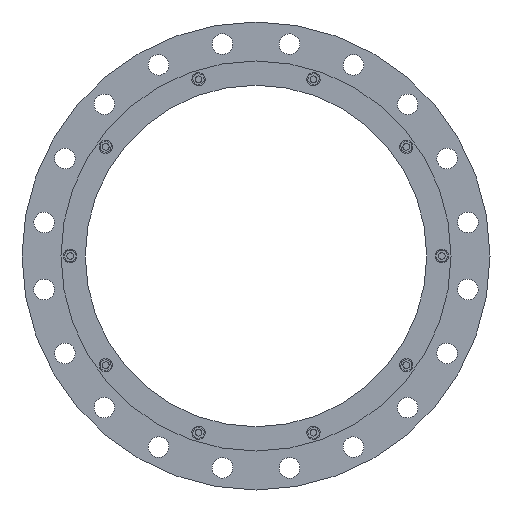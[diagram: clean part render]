
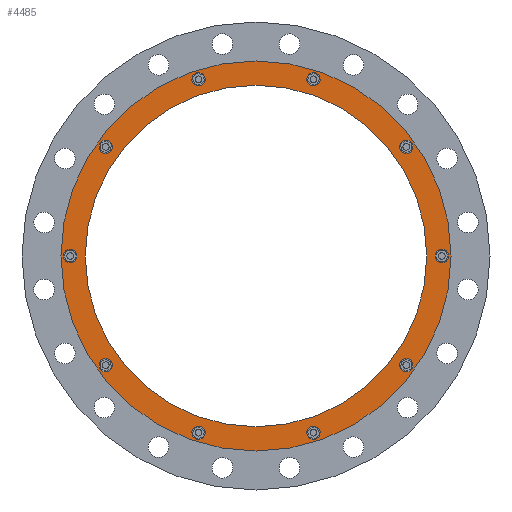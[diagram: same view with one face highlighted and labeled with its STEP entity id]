
A CAD part, front view. The second image highlights one B-rep face of the part: STEP entity #4485.
In plain terms, the highlighted planar face has unit normal (0, -1, 0).
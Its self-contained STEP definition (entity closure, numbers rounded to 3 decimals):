
#1108=CARTESIAN_POINT('',(0.,-94.452,0.));
#1109=DIRECTION('',(0.,-1.,0.));
#1110=DIRECTION('',(1.,0.,0.));
#1111=AXIS2_PLACEMENT_3D('',#1108,#1109,#1110);
#1113=CARTESIAN_POINT('',(0.,-94.452,0.));
#1114=DIRECTION('',(0.,1.,0.));
#1115=DIRECTION('',(1.,0.,0.));
#1116=AXIS2_PLACEMENT_3D('',#1113,#1114,#1115);
#1118=CARTESIAN_POINT('',(333.5,-94.452,0.));
#1119=DIRECTION('',(0.,-1.,0.));
#1120=DIRECTION('',(0.,0.,-1.));
#1121=AXIS2_PLACEMENT_3D('',#1118,#1119,#1120);
#1123=CARTESIAN_POINT('',(333.5,-94.452,0.));
#1124=DIRECTION('',(0.,-1.,0.));
#1125=DIRECTION('',(0.,0.,1.));
#1126=AXIS2_PLACEMENT_3D('',#1123,#1124,#1125);
#1128=CARTESIAN_POINT('',(269.807,-94.452,196.026));
#1129=DIRECTION('',(0.,-1.,0.));
#1130=DIRECTION('',(0.588,0.,-0.809));
#1131=AXIS2_PLACEMENT_3D('',#1128,#1129,#1130);
#1133=CARTESIAN_POINT('',(269.807,-94.452,196.026));
#1134=DIRECTION('',(0.,-1.,0.));
#1135=DIRECTION('',(-0.588,0.,0.809));
#1136=AXIS2_PLACEMENT_3D('',#1133,#1134,#1135);
#1138=CARTESIAN_POINT('',(103.057,-94.452,317.177));
#1139=DIRECTION('',(0.,-1.,0.));
#1140=DIRECTION('',(0.951,0.,-0.309));
#1141=AXIS2_PLACEMENT_3D('',#1138,#1139,#1140);
#1143=CARTESIAN_POINT('',(103.057,-94.452,317.177));
#1144=DIRECTION('',(0.,-1.,0.));
#1145=DIRECTION('',(-0.951,0.,0.309));
#1146=AXIS2_PLACEMENT_3D('',#1143,#1144,#1145);
#1148=CARTESIAN_POINT('',(-103.057,-94.452,317.177));
#1149=DIRECTION('',(0.,-1.,0.));
#1150=DIRECTION('',(0.951,0.,0.309));
#1151=AXIS2_PLACEMENT_3D('',#1148,#1149,#1150);
#1153=CARTESIAN_POINT('',(-103.057,-94.452,317.177));
#1154=DIRECTION('',(0.,-1.,0.));
#1155=DIRECTION('',(-0.951,0.,-0.309));
#1156=AXIS2_PLACEMENT_3D('',#1153,#1154,#1155);
#1158=CARTESIAN_POINT('',(-269.807,-94.452,196.026));
#1159=DIRECTION('',(0.,-1.,0.));
#1160=DIRECTION('',(0.588,0.,0.809));
#1161=AXIS2_PLACEMENT_3D('',#1158,#1159,#1160);
#1163=CARTESIAN_POINT('',(-269.807,-94.452,196.026));
#1164=DIRECTION('',(0.,-1.,0.));
#1165=DIRECTION('',(-0.588,0.,-0.809));
#1166=AXIS2_PLACEMENT_3D('',#1163,#1164,#1165);
#1168=CARTESIAN_POINT('',(-333.5,-94.452,0.));
#1169=DIRECTION('',(0.,-1.,0.));
#1170=DIRECTION('',(0.,0.,1.));
#1171=AXIS2_PLACEMENT_3D('',#1168,#1169,#1170);
#1173=CARTESIAN_POINT('',(-333.5,-94.452,0.));
#1174=DIRECTION('',(0.,-1.,0.));
#1175=DIRECTION('',(0.,0.,-1.));
#1176=AXIS2_PLACEMENT_3D('',#1173,#1174,#1175);
#1178=CARTESIAN_POINT('',(-269.807,-94.452,-196.026));
#1179=DIRECTION('',(0.,-1.,0.));
#1180=DIRECTION('',(-0.588,0.,0.809));
#1181=AXIS2_PLACEMENT_3D('',#1178,#1179,#1180);
#1183=CARTESIAN_POINT('',(-269.807,-94.452,-196.026));
#1184=DIRECTION('',(0.,-1.,0.));
#1185=DIRECTION('',(0.588,0.,-0.809));
#1186=AXIS2_PLACEMENT_3D('',#1183,#1184,#1185);
#1188=CARTESIAN_POINT('',(-103.057,-94.452,-317.177));
#1189=DIRECTION('',(0.,-1.,0.));
#1190=DIRECTION('',(-0.951,0.,0.309));
#1191=AXIS2_PLACEMENT_3D('',#1188,#1189,#1190);
#1193=CARTESIAN_POINT('',(-103.057,-94.452,-317.177));
#1194=DIRECTION('',(0.,-1.,0.));
#1195=DIRECTION('',(0.951,0.,-0.309));
#1196=AXIS2_PLACEMENT_3D('',#1193,#1194,#1195);
#1198=CARTESIAN_POINT('',(103.057,-94.452,-317.177));
#1199=DIRECTION('',(0.,-1.,0.));
#1200=DIRECTION('',(-0.951,0.,-0.309));
#1201=AXIS2_PLACEMENT_3D('',#1198,#1199,#1200);
#1203=CARTESIAN_POINT('',(103.057,-94.452,-317.177));
#1204=DIRECTION('',(0.,-1.,0.));
#1205=DIRECTION('',(0.951,0.,0.309));
#1206=AXIS2_PLACEMENT_3D('',#1203,#1204,#1205);
#1208=CARTESIAN_POINT('',(269.807,-94.452,-196.026));
#1209=DIRECTION('',(0.,-1.,0.));
#1210=DIRECTION('',(-0.588,0.,-0.809));
#1211=AXIS2_PLACEMENT_3D('',#1208,#1209,#1210);
#1213=CARTESIAN_POINT('',(269.807,-94.452,-196.026));
#1214=DIRECTION('',(0.,-1.,0.));
#1215=DIRECTION('',(0.588,0.,0.809));
#1216=AXIS2_PLACEMENT_3D('',#1213,#1214,#1215);
#1218=CARTESIAN_POINT('',(0.,-94.452,0.));
#1219=DIRECTION('',(0.,1.,0.));
#1220=DIRECTION('',(1.,0.,0.));
#1221=AXIS2_PLACEMENT_3D('',#1218,#1219,#1220);
#1231=CARTESIAN_POINT('',(0.,-94.452,0.));
#1232=DIRECTION('',(0.,-1.,0.));
#1233=DIRECTION('',(1.,0.,0.));
#1234=AXIS2_PLACEMENT_3D('',#1231,#1232,#1233);
#2983=CARTESIAN_POINT('',(350.1,-94.452,0.));
#2985=VERTEX_POINT('',#2983);
#2986=CARTESIAN_POINT('',(306.5,-94.452,0.));
#2988=VERTEX_POINT('',#2986);
#2995=CARTESIAN_POINT('',(-350.1,-94.452,0.));
#2997=VERTEX_POINT('',#2995);
#2998=CARTESIAN_POINT('',(-306.5,-94.452,0.));
#3000=VERTEX_POINT('',#2998);
#3037=CARTESIAN_POINT('',(333.5,-94.452,-12.));
#3038=CARTESIAN_POINT('',(333.5,-94.452,12.));
#3039=VERTEX_POINT('',#3037);
#3040=VERTEX_POINT('',#3038);
#3086=CARTESIAN_POINT('',(276.861,-94.452,186.318));
#3087=VERTEX_POINT('',#3086);
#3088=CARTESIAN_POINT('',(262.754,-94.452,205.735));
#3089=VERTEX_POINT('',#3088);
#3130=CARTESIAN_POINT('',(114.47,-94.452,313.469));
#3131=VERTEX_POINT('',#3130);
#3132=CARTESIAN_POINT('',(91.644,-94.452,320.886));
#3133=VERTEX_POINT('',#3132);
#3174=CARTESIAN_POINT('',(-91.644,-94.452,320.886));
#3175=VERTEX_POINT('',#3174);
#3176=CARTESIAN_POINT('',(-114.47,-94.452,313.469));
#3177=VERTEX_POINT('',#3176);
#3218=CARTESIAN_POINT('',(-262.754,-94.452,205.735));
#3219=VERTEX_POINT('',#3218);
#3220=CARTESIAN_POINT('',(-276.861,-94.452,186.318));
#3221=VERTEX_POINT('',#3220);
#3262=CARTESIAN_POINT('',(-333.5,-94.452,12.));
#3263=VERTEX_POINT('',#3262);
#3264=CARTESIAN_POINT('',(-333.5,-94.452,-12.));
#3265=VERTEX_POINT('',#3264);
#3306=CARTESIAN_POINT('',(-276.861,-94.452,-186.318));
#3307=VERTEX_POINT('',#3306);
#3308=CARTESIAN_POINT('',(-262.754,-94.452,-205.735));
#3309=VERTEX_POINT('',#3308);
#3350=CARTESIAN_POINT('',(-114.47,-94.452,-313.469));
#3351=VERTEX_POINT('',#3350);
#3352=CARTESIAN_POINT('',(-91.644,-94.452,-320.886));
#3353=VERTEX_POINT('',#3352);
#3565=CARTESIAN_POINT('',(91.644,-94.452,-320.886));
#3566=VERTEX_POINT('',#3565);
#3567=CARTESIAN_POINT('',(114.47,-94.452,-313.469));
#3568=VERTEX_POINT('',#3567);
#3609=CARTESIAN_POINT('',(262.754,-94.452,-205.735));
#3610=VERTEX_POINT('',#3609);
#3611=CARTESIAN_POINT('',(276.861,-94.452,-186.318));
#3612=VERTEX_POINT('',#3611);
#4410=CARTESIAN_POINT('',(0.,-94.452,0.));
#4411=DIRECTION('',(0.,1.,0.));
#4412=DIRECTION('',(-1.,0.,0.));
#4413=AXIS2_PLACEMENT_3D('',#4410,#4411,#4412);
#4414=PLANE('',#4413);
#4416=ORIENTED_EDGE('',*,*,#4415,.F.);
#4418=ORIENTED_EDGE('',*,*,#4417,.T.);
#4419=EDGE_LOOP('',(#4416,#4418));
#4420=FACE_OUTER_BOUND('',#4419,.F.);
#4422=ORIENTED_EDGE('',*,*,#4421,.F.);
#4424=ORIENTED_EDGE('',*,*,#4423,.T.);
#4425=EDGE_LOOP('',(#4422,#4424));
#4426=FACE_BOUND('',#4425,.F.);
#4428=ORIENTED_EDGE('',*,*,#4427,.T.);
#4430=ORIENTED_EDGE('',*,*,#4429,.T.);
#4431=EDGE_LOOP('',(#4428,#4430));
#4432=FACE_BOUND('',#4431,.F.);
#4434=ORIENTED_EDGE('',*,*,#4433,.T.);
#4436=ORIENTED_EDGE('',*,*,#4435,.T.);
#4437=EDGE_LOOP('',(#4434,#4436));
#4438=FACE_BOUND('',#4437,.F.);
#4440=ORIENTED_EDGE('',*,*,#4439,.T.);
#4442=ORIENTED_EDGE('',*,*,#4441,.T.);
#4443=EDGE_LOOP('',(#4440,#4442));
#4444=FACE_BOUND('',#4443,.F.);
#4446=ORIENTED_EDGE('',*,*,#4445,.T.);
#4448=ORIENTED_EDGE('',*,*,#4447,.T.);
#4449=EDGE_LOOP('',(#4446,#4448));
#4450=FACE_BOUND('',#4449,.F.);
#4452=ORIENTED_EDGE('',*,*,#4451,.T.);
#4454=ORIENTED_EDGE('',*,*,#4453,.T.);
#4455=EDGE_LOOP('',(#4452,#4454));
#4456=FACE_BOUND('',#4455,.F.);
#4458=ORIENTED_EDGE('',*,*,#4457,.T.);
#4460=ORIENTED_EDGE('',*,*,#4459,.T.);
#4461=EDGE_LOOP('',(#4458,#4460));
#4462=FACE_BOUND('',#4461,.F.);
#4464=ORIENTED_EDGE('',*,*,#4463,.T.);
#4466=ORIENTED_EDGE('',*,*,#4465,.T.);
#4467=EDGE_LOOP('',(#4464,#4466));
#4468=FACE_BOUND('',#4467,.F.);
#4470=ORIENTED_EDGE('',*,*,#4469,.T.);
#4472=ORIENTED_EDGE('',*,*,#4471,.T.);
#4473=EDGE_LOOP('',(#4470,#4472));
#4474=FACE_BOUND('',#4473,.F.);
#4475=ORIENTED_EDGE('',*,*,#4392,.T.);
#4476=ORIENTED_EDGE('',*,*,#4403,.T.);
#4477=EDGE_LOOP('',(#4475,#4476));
#4478=FACE_BOUND('',#4477,.F.);
#4480=ORIENTED_EDGE('',*,*,#4479,.T.);
#4482=ORIENTED_EDGE('',*,*,#4481,.T.);
#4483=EDGE_LOOP('',(#4480,#4482));
#4484=FACE_BOUND('',#4483,.F.);
#4485=ADVANCED_FACE('',(#4420,#4426,#4432,#4438,#4444,#4450,#4456,#4462,#4468,
#4474,#4478,#4484),#4414,.F.);
#1112=CIRCLE('',#1111,350.1);
#1117=CIRCLE('',#1116,350.1);
#1122=CIRCLE('',#1121,12.);
#1127=CIRCLE('',#1126,12.);
#1132=CIRCLE('',#1131,12.);
#1137=CIRCLE('',#1136,12.);
#1142=CIRCLE('',#1141,12.);
#1147=CIRCLE('',#1146,12.);
#1152=CIRCLE('',#1151,12.);
#1157=CIRCLE('',#1156,12.);
#1162=CIRCLE('',#1161,12.);
#1167=CIRCLE('',#1166,12.);
#1172=CIRCLE('',#1171,12.);
#1177=CIRCLE('',#1176,12.);
#1182=CIRCLE('',#1181,12.);
#1187=CIRCLE('',#1186,12.);
#1192=CIRCLE('',#1191,12.);
#1197=CIRCLE('',#1196,12.);
#1202=CIRCLE('',#1201,12.);
#1207=CIRCLE('',#1206,12.);
#1212=CIRCLE('',#1211,12.);
#1217=CIRCLE('',#1216,12.);
#1222=CIRCLE('',#1221,306.5);
#1235=CIRCLE('',#1234,306.5);
#4392=EDGE_CURVE('',#3566,#3568,#1202,.T.);
#4403=EDGE_CURVE('',#3568,#3566,#1207,.T.);
#4415=EDGE_CURVE('',#2985,#2997,#1112,.T.);
#4417=EDGE_CURVE('',#2985,#2997,#1117,.T.);
#4421=EDGE_CURVE('',#2988,#3000,#1222,.T.);
#4423=EDGE_CURVE('',#2988,#3000,#1235,.T.);
#4427=EDGE_CURVE('',#3039,#3040,#1122,.T.);
#4429=EDGE_CURVE('',#3040,#3039,#1127,.T.);
#4433=EDGE_CURVE('',#3087,#3089,#1132,.T.);
#4435=EDGE_CURVE('',#3089,#3087,#1137,.T.);
#4439=EDGE_CURVE('',#3131,#3133,#1142,.T.);
#4441=EDGE_CURVE('',#3133,#3131,#1147,.T.);
#4445=EDGE_CURVE('',#3175,#3177,#1152,.T.);
#4447=EDGE_CURVE('',#3177,#3175,#1157,.T.);
#4451=EDGE_CURVE('',#3219,#3221,#1162,.T.);
#4453=EDGE_CURVE('',#3221,#3219,#1167,.T.);
#4457=EDGE_CURVE('',#3263,#3265,#1172,.T.);
#4459=EDGE_CURVE('',#3265,#3263,#1177,.T.);
#4463=EDGE_CURVE('',#3307,#3309,#1182,.T.);
#4465=EDGE_CURVE('',#3309,#3307,#1187,.T.);
#4469=EDGE_CURVE('',#3351,#3353,#1192,.T.);
#4471=EDGE_CURVE('',#3353,#3351,#1197,.T.);
#4479=EDGE_CURVE('',#3610,#3612,#1212,.T.);
#4481=EDGE_CURVE('',#3612,#3610,#1217,.T.);
